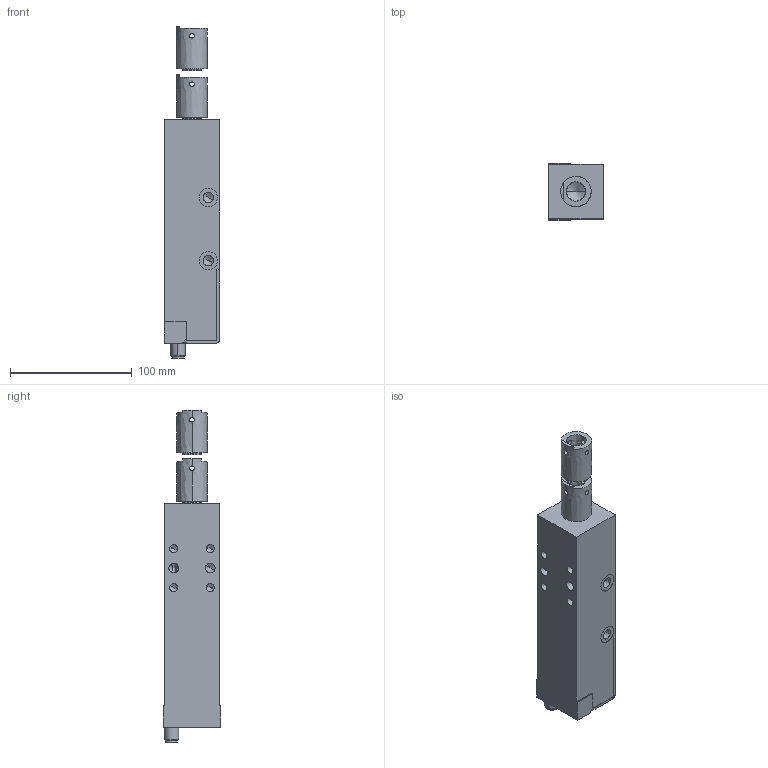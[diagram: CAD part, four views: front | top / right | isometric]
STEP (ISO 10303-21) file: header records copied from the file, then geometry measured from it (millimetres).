
FILE_DESCRIPTION(('CATIA V5 STEP Exchange'),'2;1');
FILE_NAME('C:\Users\huberm\Desktop\SZK_30_40_A02_T12_TUENKERS.stp','2017-10-04T08:00:41+00:00',('none'),('none'),'CATIA Version 5 Release 19 SP 9 (IN-10)','CATIA V5 STEP AP214','none');
FILE_SCHEMA(('AUTOMOTIVE_DESIGN { 1 0 10303 214 1 1 1 1 }'));
Length unit declared in the file: millimetre
Products named in the file (1): SZK_30_40_A02_T12_TUENKERS
Bounding box: 45.1 x 47 x 273 mm (x, y, z)
Volume: 391957.4 mm3; surface area: 50835.5 mm2
Topology: 2 solids, 14 shells, 186 faces, 629 edges, 430 vertices
Faces by surface type: cylinder 54, plane 46, bspline 44, cone 36, sphere 6
Entity records: 9522 total; most frequent: CARTESIAN_POINT 4114, ORIENTED_EDGE 1032, EDGE_CURVE 591, VERTEX_POINT 430, DIRECTION 423, B_SPLINE_CURVE_WITH_KNOTS 310, EDGE_LOOP 225, ADVANCED_FACE 186
